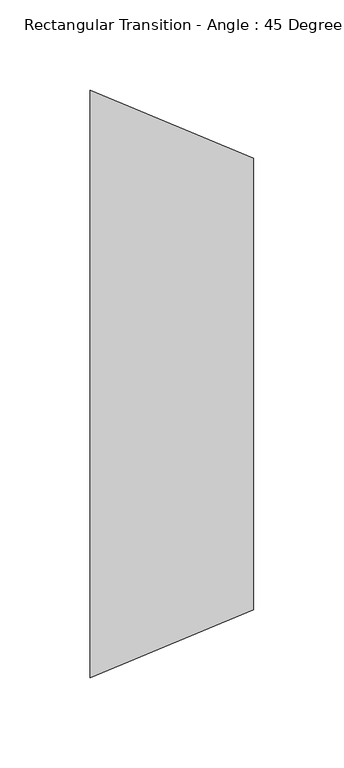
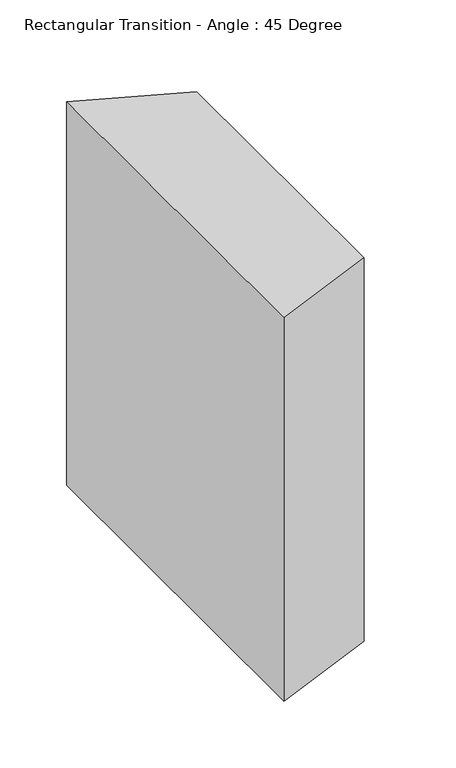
"""IFC4 building model written with IfcOpenShell, lengths in millimetres: duct fitting geometry, Rectangular Transition - Angle : 45 Degree."""

from ifc_helpers import new_model, si_unit, frame, origin, place, context, project, spatial, polyline, outline, extrude, source, transform, mapped, element, save


def rectangular_transition_angle_45_degree_87f8d392(model_context):
    return source(origin(), model_context, "Body", "SweptSolid", [
        extrude(outline(polyline([(0.0, -162.5), (0.0, 162.5), (90.5330086, 125.0), (90.5330086, -125.0), (0.0, -162.5)])), frame((0.0, 0.0, -175.0), z_axis=(0.0, 0.0, 1.0), x_axis=(1.0, 0.0, 0.0)), (0.0, 0.0, 1.0), 350.0),
    ])


if __name__ == "__main__":
    model = new_model("IFC4")
    model_context = context("Model", 3, world=origin())
    ifc_project = project(units=[si_unit("LENGTHUNIT", "METRE", prefix="MILLI")], contexts=[model_context])
    site = spatial("IfcSite", under=ifc_project)
    building = spatial("IfcBuilding", under=site)
    placement = place(None, origin())
    rectangular_transition_angle_45_degree_shape = rectangular_transition_angle_45_degree_87f8d392(model_context)
    element("IfcDuctFitting", 1, ObjectType="Rectangular Transition - Angle : 45 Degree", at=placement, inside=building, context=model_context, shape_type="MappedRepresentation", body=[
        mapped(rectangular_transition_angle_45_degree_shape, transform((0.0, 0.0, 0.0), x_axis=(1.0, 0.0, 0.0), y_axis=(0.0, 1.0, 0.0), z_axis=(0.0, 0.0, 1.0))),
    ])
    save(model, "model.ifc")
